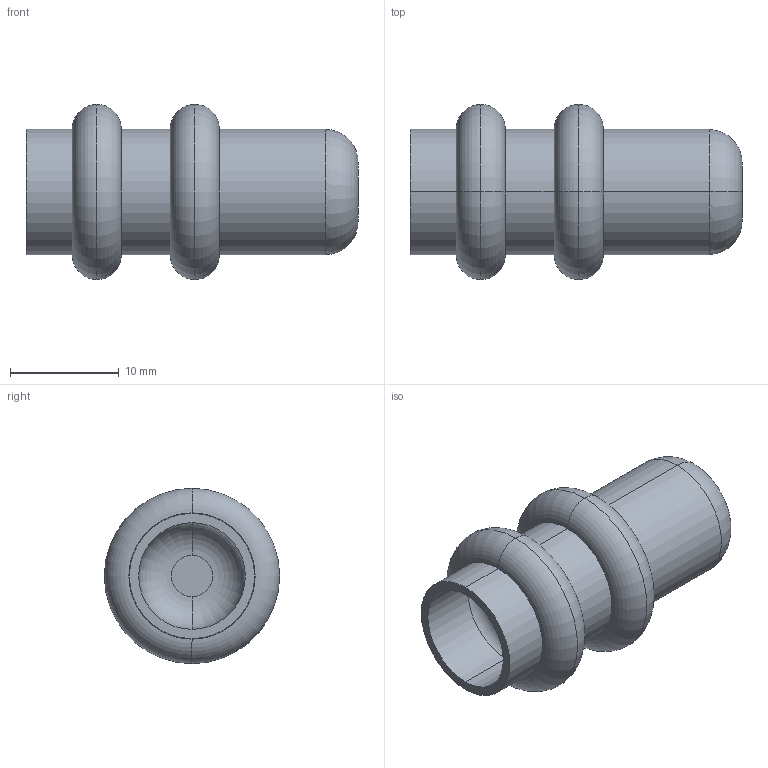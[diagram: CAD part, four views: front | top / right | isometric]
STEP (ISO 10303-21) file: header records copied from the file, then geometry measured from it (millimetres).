
FILE_DESCRIPTION(('starvars output'),'1');
FILE_NAME('cv20240422105040000011876.stp','10:50:40 2024/04/22',('Thomas Industrial Network Germany GmbH'),(' '),'Spatial InterOp 3D',' ',' ');
FILE_SCHEMA(('AUTOMOTIVE_DESIGN { 1 0 10303 214 3 1 1 }'));
Length unit declared in the file: millimetre
Products named in the file (1): 1
Bounding box: 30.5 x 16.1 x 16.1 mm (x, y, z)
Volume: 1277.3 mm3; surface area: 2740.8 mm2
Topology: 1 solids, 1 shells, 43 faces, 84 edges, 52 vertices
Faces by surface type: torus 20, cylinder 12, plane 11
Entity records: 1502 total; most frequent: DIRECTION 244, CARTESIAN_POINT 180, ORIENTED_EDGE 168, AXIS2_PLACEMENT_3D 116, EDGE_CURVE 84, CIRCLE 72, EDGE_LOOP 52, VERTEX_POINT 52
